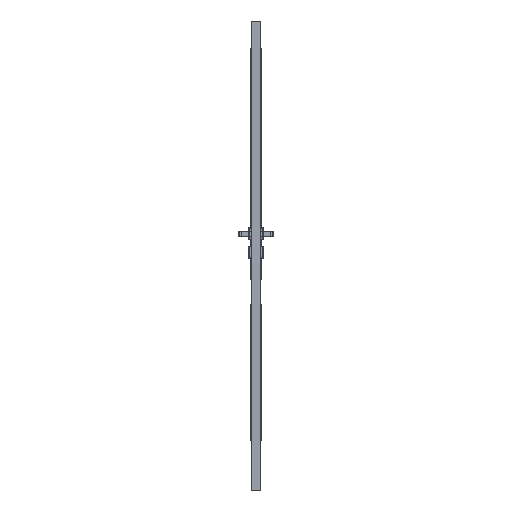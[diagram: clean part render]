
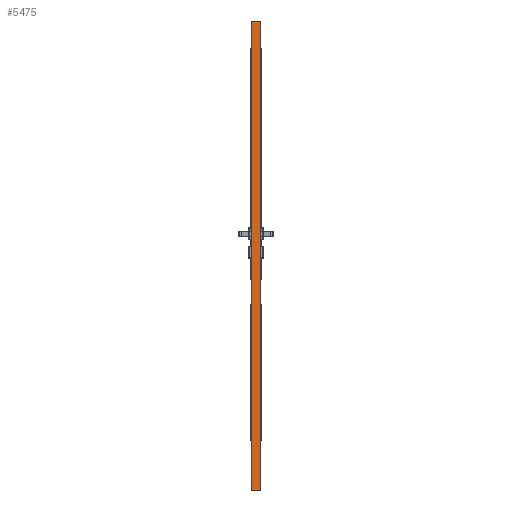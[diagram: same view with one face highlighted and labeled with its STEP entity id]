
A CAD part, left-side view. The second image highlights one B-rep face of the part: STEP entity #5475.
In plain terms, the highlighted planar face has unit normal (-1, 0, 0).
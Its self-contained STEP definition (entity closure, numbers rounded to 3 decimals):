
#3291=FACE_OUTER_BOUND('',#10046,.T.);
#5475=ADVANCED_FACE('',(#3291),#7456,.F.);
#7456=PLANE('',#38870);
#10046=EDGE_LOOP('',(#14522,#14523,#14524,#14525,#14526,#14527));
#14522=ORIENTED_EDGE('',*,*,#26920,.T.);
#14523=ORIENTED_EDGE('',*,*,#27304,.T.);
#14524=ORIENTED_EDGE('',*,*,#27287,.T.);
#14525=ORIENTED_EDGE('',*,*,#27284,.T.);
#14526=ORIENTED_EDGE('',*,*,#26932,.F.);
#14527=ORIENTED_EDGE('',*,*,#27303,.F.);
#23332=VERTEX_POINT('',#54700);
#23333=VERTEX_POINT('',#54702);
#23344=VERTEX_POINT('',#54756);
#23345=VERTEX_POINT('',#54757);
#23554=VERTEX_POINT('',#58747);
#23556=VERTEX_POINT('',#58753);
#26920=EDGE_CURVE('',#23333,#23332,#31896,.T.);
#26932=EDGE_CURVE('',#23344,#23345,#31898,.T.);
#27284=EDGE_CURVE('',#23554,#23345,#32129,.T.);
#27287=EDGE_CURVE('',#23556,#23554,#32132,.T.);
#27303=EDGE_CURVE('',#23333,#23344,#32144,.T.);
#27304=EDGE_CURVE('',#23332,#23556,#32145,.T.);
#31896=LINE('',#54701,#35250);
#31898=LINE('',#54755,#35252);
#32129=LINE('',#58746,#35483);
#32132=LINE('',#58752,#35486);
#32144=LINE('',#58784,#35498);
#32145=LINE('',#58786,#35499);
#35250=VECTOR('',#42208,1.);
#35252=VECTOR('',#42212,1.);
#35483=VECTOR('',#42637,1.);
#35486=VECTOR('',#42642,1.);
#35498=VECTOR('',#42666,1.);
#35499=VECTOR('',#42669,1.);
#38870=AXIS2_PLACEMENT_3D('',#58787,#42670,#42671);
#42208=DIRECTION('',(0.,0.,-1.));
#42212=DIRECTION('',(0.,0.,-1.));
#42637=DIRECTION('',(0.,-0.707,0.707));
#42642=DIRECTION('',(0.,-1.,0.));
#42666=DIRECTION('',(0.,-1.,0.));
#42669=DIRECTION('',(0.,-0.707,-0.707));
#42670=DIRECTION('',(1.,0.,0.));
#42671=DIRECTION('',(0.,1.,0.));
#54700=CARTESIAN_POINT('',(-309.,0.,2.));
#54701=CARTESIAN_POINT('',(-309.,0.,2017.));
#54702=CARTESIAN_POINT('',(-309.,0.,2017.));
#54755=CARTESIAN_POINT('',(-309.,-39.3,2017.));
#54756=CARTESIAN_POINT('',(-309.,-39.3,2017.));
#54757=CARTESIAN_POINT('',(-309.,-39.3,2.));
#58746=CARTESIAN_POINT('',(-309.,-39.3,2.));
#58747=CARTESIAN_POINT('',(-309.,-37.3,0.));
#58752=CARTESIAN_POINT('',(-309.,0.,0.));
#58753=CARTESIAN_POINT('',(-309.,-2.,0.));
#58784=CARTESIAN_POINT('',(-309.,0.,2017.));
#58786=CARTESIAN_POINT('',(-309.,0.,2.));
#58787=CARTESIAN_POINT('',(-309.,0.,2017.));
